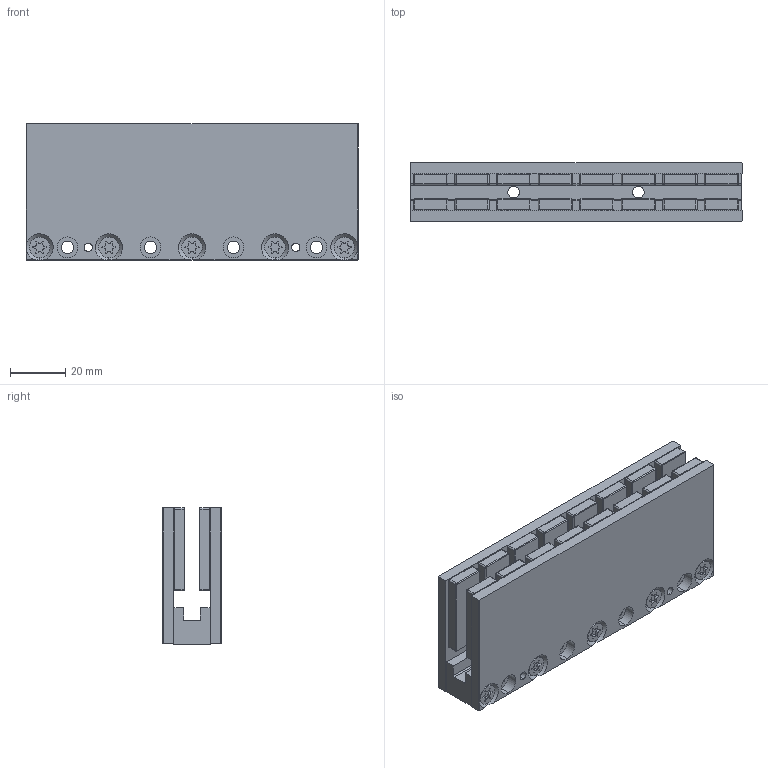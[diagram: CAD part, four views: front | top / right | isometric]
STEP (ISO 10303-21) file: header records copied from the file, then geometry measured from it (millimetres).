
FILE_DESCRIPTION (( 'STEP AP203' ), '1' );
FILE_NAME ('MY59-120.STEP', '2022-10-28T06:16:34', ( '' ), ( '' ), 'SwSTEP 2.0', 'SolidWorks 2021', '' );
FILE_SCHEMA (( 'CONFIG_CONTROL_DESIGN' ));
Length unit declared in the file: millimetre
Products named in the file (1): MY59-120
Bounding box: 119.9 x 21.1 x 49.2 mm (x, y, z)
Volume: 84556.7 mm3; surface area: 54540.6 mm2
Topology: 29 solids, 29 shells, 942 faces, 2292 edges, 1408 vertices
Faces by surface type: cylinder 454, plane 276, torus 128, cone 84
Entity records: 27805 total; most frequent: DIRECTION 5258, CARTESIAN_POINT 4715, ORIENTED_EDGE 4584, EDGE_CURVE 2292, AXIS2_PLACEMENT_3D 2047, VERTEX_POINT 1408, VECTOR 1164, LINE 1164
